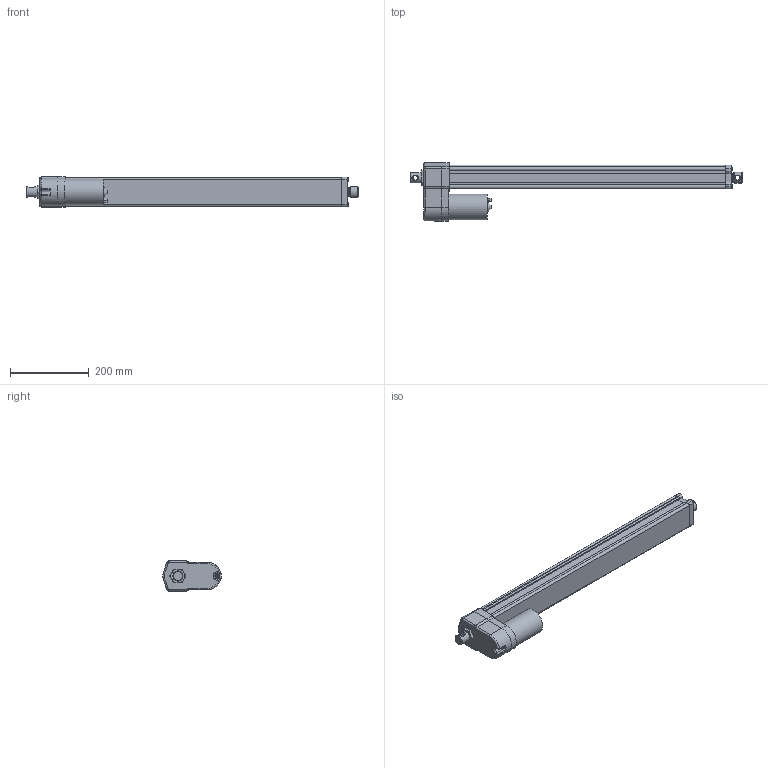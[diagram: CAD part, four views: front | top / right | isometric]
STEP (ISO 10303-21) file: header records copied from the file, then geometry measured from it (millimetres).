
FILE_DESCRIPTION( ( 'STEP AP203' ), '1' );
FILE_NAME( 'p:/temp/worker_518/temp/exporttempdir_6308_527_hhD6T/format_0/DA12-05A65M60M0N-AMM.stp', '2020-04-12T13:20:08', ( 'License CC BY-ND 4.0' ), ( 'CADENAS' ), ' ', 'PARTsolutions', ' ' );
FILE_SCHEMA( ( 'CONFIG_CONTROL_DESIGN' ) );
Length unit declared in the file: millimetre
Products named in the file (8): DA12-05A65M60M0N-AMM; _ELECTRAK-LA14-DA12-05A65MM0N-60M-EU-REAR; _Electrak-10-EU-RA-D602700; _D602768eu; _ELECTRAK-LA14-DA12--MOTOR; _DA12-05A65M60M0NAMMtube; _ELECTRAK-LA14-DA12--60-PLATE; _ELECTRAK-LA14-DA12--6005A65MNM-ROD
Assembly tree (7 placements, depth 2):
  DA12-05A65M60M0N-AMM
    _ELECTRAK-LA14-DA12-05A65MM0N-60M-EU-REAR
    _Electrak-10-EU-RA-D602700
    _D602768eu
    _ELECTRAK-LA14-DA12--MOTOR
    _DA12-05A65M60M0NAMMtube
    _ELECTRAK-LA14-DA12--60-PLATE
    _ELECTRAK-LA14-DA12--6005A65MNM-ROD
Bounding box: 841.05 x 148 x 76.2 mm (x, y, z)
Volume: 2178676.6 mm3; surface area: 646643.7 mm2
Topology: 7 solids, 8 shells, 378 faces, 942 edges, 610 vertices
Faces by surface type: plane 183, cylinder 131, cone 46, torus 14, bspline 4
Full cylindrical faces by diameter (mm): 4 x2, 4.126 x1, 4.8 x6, 5 x5, 5.6 x4, 7.878 x4, 9.398 x1, 12.2 x2, 16 x1, 21.8 x1, 25.2 x1, 25.4 x1, 26.24 x1, 28.5 x1, 28.6 x2, 47.625 x1, 65.3 x1
Entity records: 11834 total; most frequent: CARTESIAN_POINT 2729, DIRECTION 1869, ORIENTED_EDGE 1744, EDGE_CURVE 872, AXIS2_PLACEMENT_3D 702, VERTEX_POINT 602, EDGE_LOOP 485, LINE 465
